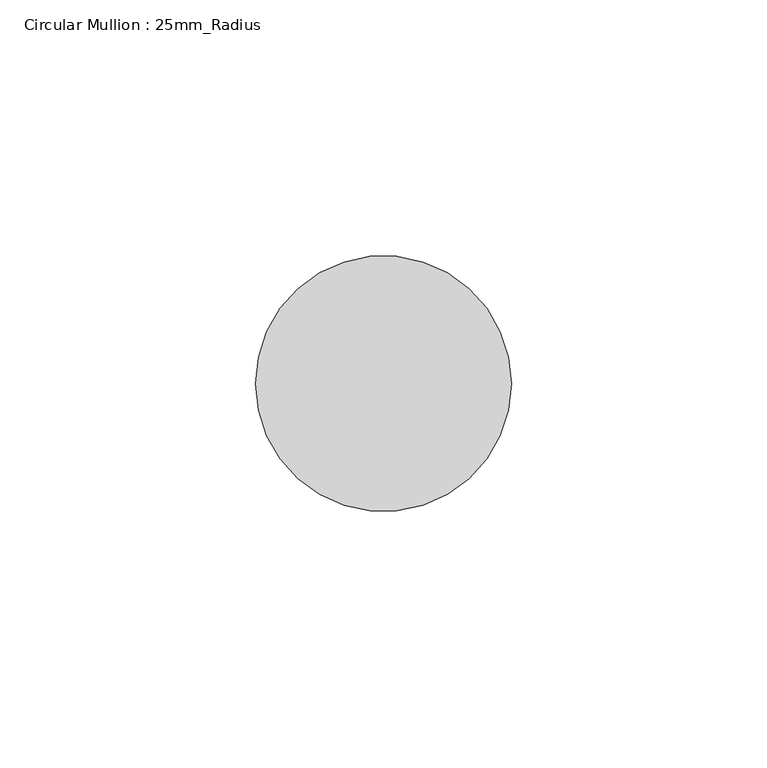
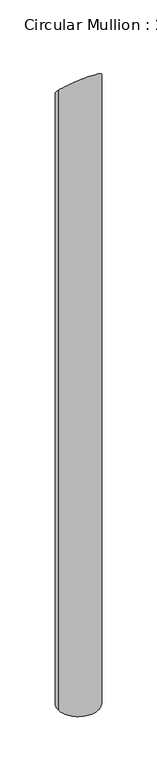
"""IFC4 building model written with IfcOpenShell, lengths in millimetres: member geometry, Circular Mullion : 25mm_Radius."""

from ifc_helpers import new_model, si_unit, frame, origin, place, context, project, spatial, circle_curve, ellipse_curve, source, transform, mapped, element, save
from ifc_brep_helpers import plane_surface, cylinder_surface, advanced_brep


def circular_mullion_25mm_radius_03331507(model_context):
    return source(origin(), model_context, "Body", "AdvancedBrep", [
        advanced_brep(
        [(0.0, 0.0, -812.4994084), (-50.0, 0.0, -812.4994084), (-50.0, 0.0, 0.0), (0.0, 0.0, 0.0)],
        [
            (0, 1, circle_curve(frame((-25.0, 0.0, -812.4994084), z_axis=(0.0, 0.0, -1.0), x_axis=(1.0, 0.0, 0.0)), 25.0)),
            (1, 0, circle_curve(frame((-25.0, 0.0, -812.4994084), z_axis=(0.0, 0.0, -1.0), x_axis=(1.0, 0.0, 0.0)), 25.0)),
            (2, 3, ellipse_curve(frame((-25.0, 0.0, 0.0), z_axis=(0.0, -0.7071067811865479, -0.7071067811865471), x_axis=(0.0, -0.7071067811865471, 0.7071067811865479)), 35.3553391, 25.0)),
            (3, 0),
            (1, 2),
            (3, 2, ellipse_curve(frame((-25.0, 0.0, 0.0), z_axis=(0.0, -0.7071067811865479, -0.7071067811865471), x_axis=(0.0, -0.7071067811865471, 0.7071067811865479)), 35.3553391, 25.0)),
        ],
        [
            plane_surface(frame((0.0, -50.0, -812.4994084), z_axis=(0.0, 0.0, -1.0), x_axis=(-1.0, 0.0, 0.0))),
            cylinder_surface(frame((-25.0, 0.0, 0.0), z_axis=(0.0, 0.0, 1.0), x_axis=(1.0, 0.0, 0.0)), 25.0),
            plane_surface(frame((-304.8, 0.0, 0.0), z_axis=(0.0, 0.7071067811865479, 0.7071067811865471), x_axis=(0.0, 0.7071067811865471, -0.7071067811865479))),
        ],
        [
            (0, [[1, 2]]),
            (1, [[3, 4, -2, 5]]),
            (1, [[6, -5, -1, -4]]),
            (2, [[-3, -6]]),
        ],
    ),
    ])


if __name__ == "__main__":
    model = new_model("IFC4")
    model_context = context("Model", 3, world=origin())
    ifc_project = project(units=[si_unit("LENGTHUNIT", "METRE", prefix="MILLI")], contexts=[model_context])
    site = spatial("IfcSite", under=ifc_project)
    building = spatial("IfcBuilding", under=site)
    placement = place(None, origin())
    circular_mullion_25mm_radius_shape = circular_mullion_25mm_radius_03331507(model_context)
    element("IfcMember", 1, ObjectType="Circular Mullion : 25mm_Radius", at=placement, inside=building, context=model_context, shape_type="MappedRepresentation", body=[
        mapped(circular_mullion_25mm_radius_shape, transform((0.0, 0.0, 0.0), x_axis=(1.0, 0.0, 0.0), y_axis=(0.0, 1.0, 0.0), z_axis=(0.0, 0.0, 1.0))),
    ])
    save(model, "model.ifc")
